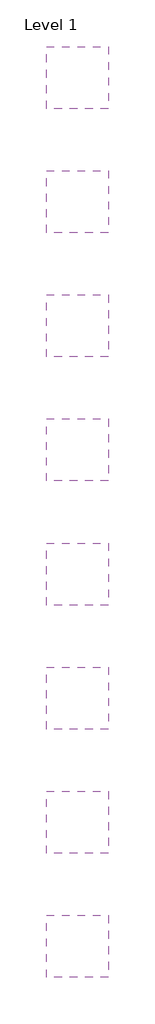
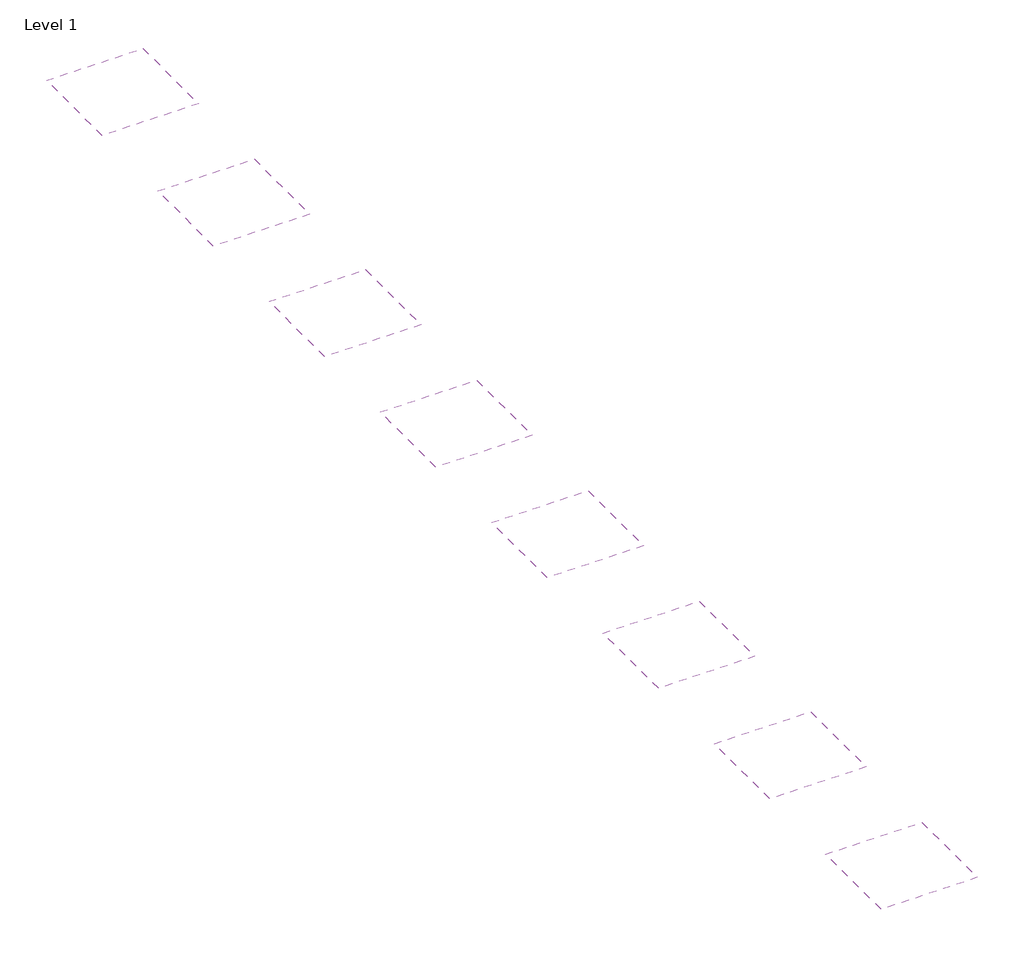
# One storey: 8 coverings.
"""IFC4 building model written with IfcOpenShell, lengths in millimetres."""

from ifc_helpers import new_model, si_unit, frame, origin, place, context, project, spatial, polyline, outline, extrude, element, save

model = new_model("IFC4")

# Units and contexts
model_context = context("Model", 3, world=origin())
ifc_project = project(units=[si_unit("LENGTHUNIT", "METRE", prefix="MILLI")], contexts=[model_context])

# Site, building, storey
site = spatial("IfcSite", under=ifc_project)
building = spatial("IfcBuilding", under=site)
storey = spatial("IfcBuildingStorey", under=building, Name="Level 1", Elevation=0.0)

# Coverings
placement = place(None, origin())
element("IfcCovering", 1, ObjectType="NBS_ArmstrongCeilingsLtd_UnitModularSuspendedCeilingSystem_Ultima+MicroLook90-Prelude15Exposed_500x500x19mm_EN", at=placement, inside=storey, context=model_context, shape_type="SweptSolid", body=[
    extrude(outline(polyline([(2500.0, 7500.0), (2500.0, 5000.0), (0.0, 5000.0), (0.0, 7500.0), (2500.0, 7500.0)])), frame((0.0, 0.0, 2600.0), z_axis=(0.0, 0.0, 1.0), x_axis=(1.0, 0.0, 0.0)), (0.0, 0.0, 1.0), 51.0),
])
element("IfcCovering", 2, ObjectType="NBS_ArmstrongCeilingsLtd_UnitModularSuspendedCeilingSystem_Ultima+MicroLook90-Prelude15Exposed_600x600x19mm_EN", at=placement, inside=storey, context=model_context, shape_type="SweptSolid", body=[
    extrude(outline(polyline([(2500.0, 2500.0), (2500.0, 0.0), (0.0, 0.0), (0.0, 2500.0), (2500.0, 2500.0)])), frame((0.0, 0.0, 2600.0), z_axis=(0.0, 0.0, 1.0), x_axis=(1.0, 0.0, 0.0)), (0.0, 0.0, 1.0), 51.0),
])
element("IfcCovering", 3, ObjectType="NBS_ArmstrongCeilingsLtd_UnitModularSuspendedCeilingSystem_Ultima+MicroLook90-Interlude15XL²HRCExposed_600x600x19mm_EN", at=placement, inside=storey, context=model_context, shape_type="SweptSolid", body=[
    extrude(outline(polyline([(2500.0, -2500.0), (2500.0, -5000.0), (0.0, -5000.0), (0.0, -2500.0), (2500.0, -2500.0)])), frame((0.0, 0.0, 2600.0), z_axis=(0.0, 0.0, 1.0), x_axis=(1.0, 0.0, 0.0)), (0.0, 0.0, 1.0), 52.0),
])
element("IfcCovering", 4, ObjectType="NBS_ArmstrongCeilingsLtd_UnitModularSuspendedCeilingSystem_Ultima+MicroLook90-Silhouette15XL²Exposed_600x600x19mm_EN", at=placement, inside=storey, context=model_context, shape_type="SweptSolid", body=[
    extrude(outline(polyline([(2500.0, -7500.0), (2500.0, -10000.0), (0.0, -10000.0), (0.0, -7500.0), (2500.0, -7500.0)])), frame((0.0, 0.0, 2600.0), z_axis=(0.0, 0.0, 1.0), x_axis=(1.0, 0.0, 0.0)), (0.0, 0.0, 1.0), 52.0),
])
element("IfcCovering", 5, ObjectType="NBS_ArmstrongCeilingsLtd_UnitModularSuspendedCeilingSystem_Ultima+MicroLook90-Prelude15Exposed_625x625x19mm_DE", at=placement, inside=storey, context=model_context, shape_type="SweptSolid", body=[
    extrude(outline(polyline([(2500.0, -12500.0), (2500.0, -15000.0), (0.0, -15000.0), (0.0, -12500.0), (2500.0, -12500.0)])), frame((0.0, 0.0, 2600.0), z_axis=(0.0, 0.0, 1.0), x_axis=(1.0, 0.0, 0.0)), (0.0, 0.0, 1.0), 51.0),
])
element("IfcCovering", 6, ObjectType="NBS_ArmstrongCeilingsLtd_UnitModularSuspendedCeilingSystem_Ultima+MicroLook90-Prelude15Exposed_675x675x19mm_FR", at=placement, inside=storey, context=model_context, shape_type="SweptSolid", body=[
    extrude(outline(polyline([(2500.0, -17500.0), (2500.0, -20000.0), (0.0, -20000.0), (0.0, -17500.0), (2500.0, -17500.0)])), frame((0.0, 0.0, 2600.0), z_axis=(0.0, 0.0, 1.0), x_axis=(1.0, 0.0, 0.0)), (0.0, 0.0, 1.0), 51.0),
])
element("IfcCovering", 7, ObjectType="NBS_ArmstrongCeilingsLtd_UnitModularSuspendedCeilingSystem_Ultima+MicroLook90-Prelude15Exposed_1200x300x19mm_EN", at=placement, inside=storey, context=model_context, shape_type="SweptSolid", body=[
    extrude(outline(polyline([(2500.0, -22500.0), (2500.0, -25000.0), (0.0, -25000.0), (0.0, -22500.0), (2500.0, -22500.0)])), frame((0.0, 0.0, 2600.0), z_axis=(0.0, 0.0, 1.0), x_axis=(1.0, 0.0, 0.0)), (0.0, 0.0, 1.0), 51.0),
])
element("IfcCovering", 8, ObjectType="NBS_ArmstrongCeilingsLtd_UnitModularSuspendedCeilingSystem_Ultima+MicroLook90-Prelude15Exposed_1200x600x19mm_EN", at=placement, inside=storey, context=model_context, shape_type="SweptSolid", body=[
    extrude(outline(polyline([(2500.0, -27500.0), (2500.0, -30000.0), (0.0, -30000.0), (0.0, -27500.0), (2500.0, -27500.0)])), frame((0.0, 0.0, 2600.0), z_axis=(0.0, 0.0, 1.0), x_axis=(1.0, 0.0, 0.0)), (0.0, 0.0, 1.0), 51.0),
])

save(model, "model.ifc")
